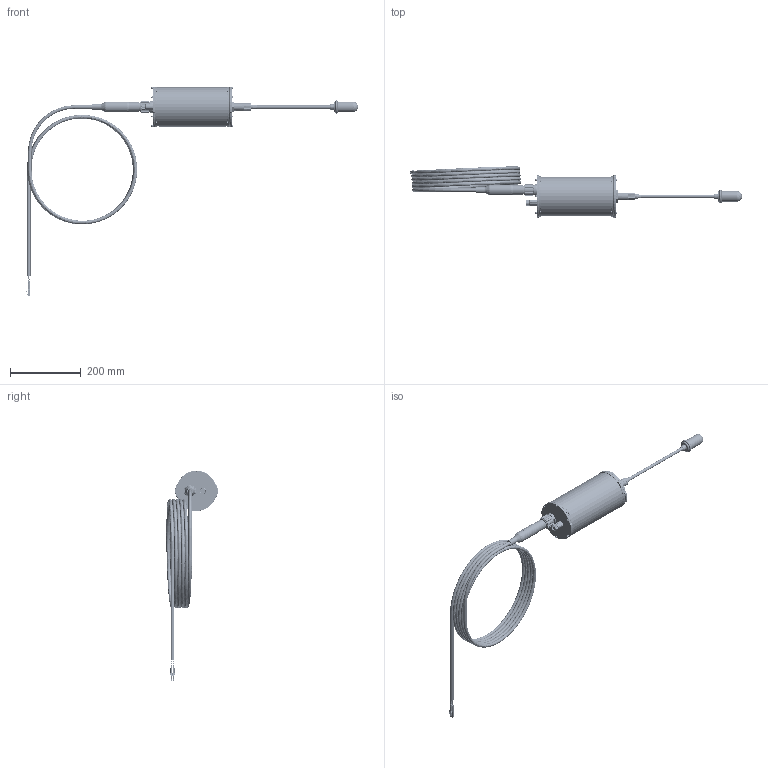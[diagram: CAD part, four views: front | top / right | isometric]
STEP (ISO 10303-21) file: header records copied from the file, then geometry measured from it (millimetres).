
FILE_DESCRIPTION (( 'STEP AP214' ), '1' );
FILE_NAME ('1010 HAE General Assembly.STEP', '2026-02-02T01:42:47', ( '' ), ( '' ), 'SwSTEP 2.0', 'SolidWorks 2024', '' );
FILE_SCHEMA (( 'AUTOMOTIVE_DESIGN' ));
Length unit declared in the file: millimetre
Products named in the file (20): B18.3.1M - 3 x 0.5 x 10 Hex SHCS -- 10NHX_B18.3.1M - 3 x 0.5 x 10 Hex SHCS -- 10NHX; WTE4-M-END-CAP-BLANK-R2_1 Hole; BR-101040_RevC; mcdls-f-01308410; 1AF02-001-MA2; 1010 HAE General Assembly; PRV-M10-ASM-R1-RP; 1AF02-001-MA1; 1007 cable 01; FOC-LCSMD25CL_3D; 1AF02-001-MA3; optolink-fo-bcr-a-dry-box; 1AF02-001-MA4; 1007 cable 02; BR-100195-200_RevB; optolink-fo-ccp-a; mcil3m-01105130; 1007 cable 03; WTE4-M-END-CAP-BLANK-R2_2 Holes; bcr1503f
Assembly tree (32 placements, depth 4):
  1010 HAE General Assembly
    BR-100195-200_RevB
    BR-101040_RevC  x2
    WTE4-M-END-CAP-BLANK-R2_2 Holes
    WTE4-M-END-CAP-BLANK-R2_1 Hole
    B18.3.1M - 3 x 0.5 x 10 Hex SHCS -- 10NHX_B18.3.1M - 3 x 0.5 x 10 Hex SHCS -- 10NHX  x12
    PRV-M10-ASM-R1-RP
    bcr1503f
    mcil3m-01105130
    mcdls-f-01308410
    optolink-fo-bcr-a-dry-box
    optolink-fo-ccp-a
    1007 cable 01
    1007 cable 02
    FOC-LCSMD25CL_3D
      1AF02-001-MA1  x2
        1AF02-001-MA2
        1AF02-001-MA3
      1AF02-001-MA4
    1007 cable 03
Bounding box: 940.85 x 145.57 x 596.22 mm (x, y, z)
Volume: 1097829.6 mm3; surface area: 490709.1 mm2
Topology: 36 solids, 43 shells, 4379 faces, 11370 edges, 7162 vertices
Faces by surface type: cylinder 1501, plane 1217, bspline 688, cone 637, torus 321, sphere 15
Entity records: 225192 total; most frequent: CARTESIAN_POINT 134703, ORIENTED_EDGE 16704, DIRECTION 12272, EDGE_CURVE 8364, VERTEX_POINT 5310, AXIS2_PLACEMENT_3D 4644, EDGE_LOOP 3514, ADVANCED_FACE 3250
